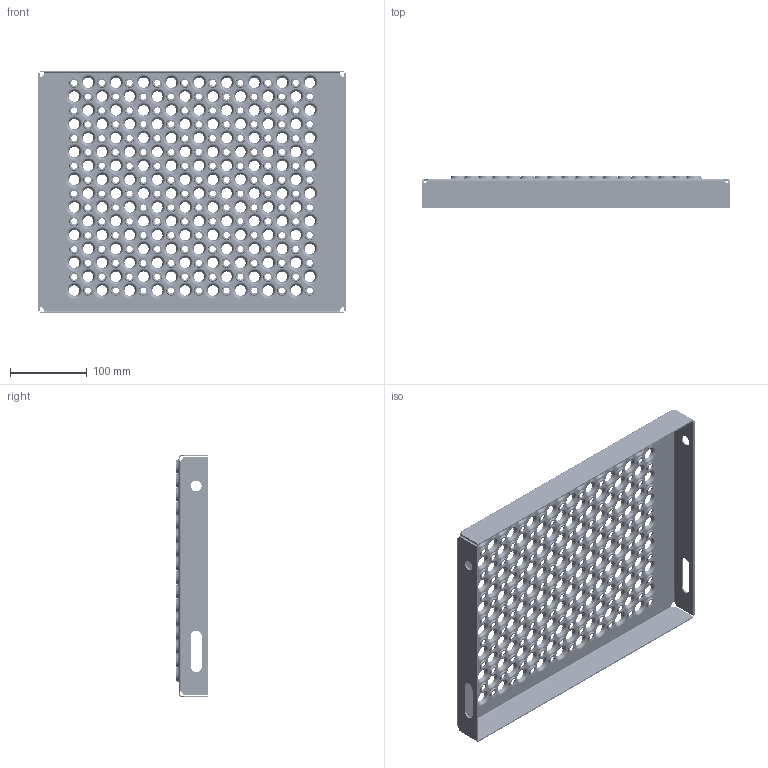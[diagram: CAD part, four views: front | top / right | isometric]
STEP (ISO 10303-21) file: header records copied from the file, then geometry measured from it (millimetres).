
FILE_DESCRIPTION (( 'STEP AP203' ), '1' );
FILE_NAME ('80243104G_Lejdertrin_315x400x45_mm_.STEP', '2015-06-09T05:38:47', ( '' ), ( '' ), 'SwSTEP 2.0', 'SolidWorks 2013', '' );
FILE_SCHEMA (( 'CONFIG_CONTROL_DESIGN' ));
Length unit declared in the file: millimetre
Products named in the file (1): 80243104G_Lejdertrin_315x400x45_mm_
Bounding box: 400 x 41 x 315 mm (x, y, z)
Volume: 324304 mm3; surface area: 349352 mm2
Topology: 1 solids, 1 shells, 1508 faces, 4198 edges, 2692 vertices
Faces by surface type: cone 864, torus 576, cylinder 34, plane 26, bspline 8
Full cylindrical faces by diameter (mm): 14 x2
Entity records: 35293 total; most frequent: DIRECTION 6642, CARTESIAN_POINT 5729, ORIENTED_EDGE 3784, EDGE_LOOP 3534, AXIS2_PLACEMENT_3D 3281, FACE_OUTER_BOUND 2086, EDGE_CURVE 1892, VERTEX_POINT 1828
